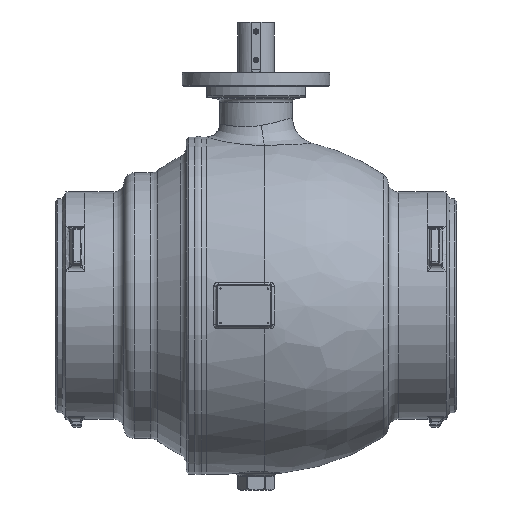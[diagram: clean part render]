
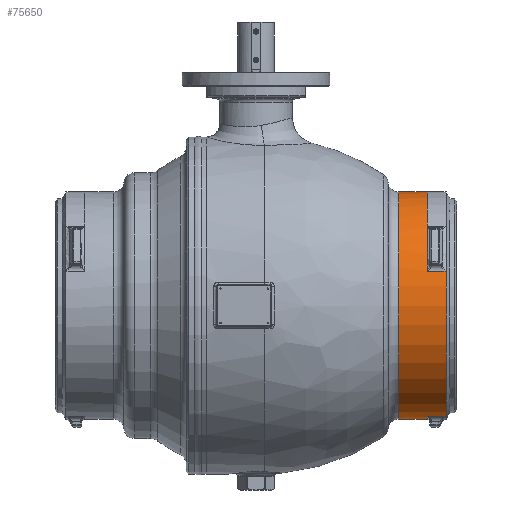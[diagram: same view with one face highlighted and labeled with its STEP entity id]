
A CAD part, front view. The second image highlights one B-rep face of the part: STEP entity #75650.
In plain terms, the highlighted cylindrical face has radius 432 mm (diameter 864 mm), a partial arc.
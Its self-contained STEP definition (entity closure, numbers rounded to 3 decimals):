
#17346=CARTESIAN_POINT('',(722.278,0.,0.));
#17347=DIRECTION('',(-1.,0.,0.));
#17348=DIRECTION('',(0.,0.,-1.));
#17349=AXIS2_PLACEMENT_3D('',#17346,#17347,#17348);
#17351=DIRECTION('',(-1.,0.,0.));
#17352=VECTOR('',#17351,0.04);
#17353=CARTESIAN_POINT('',(722.278,0.,-432.));
#17354=LINE('',#17353,#17352);
#17355=DIRECTION('',(-1.,0.,0.));
#17356=VECTOR('',#17355,71.238);
#17357=CARTESIAN_POINT('',(722.238,-92.061,
-422.077));
#17358=LINE('',#17357,#17356);
#17359=DIRECTION('',(-1.,0.,0.));
#17360=VECTOR('',#17359,109.307);
#17361=CARTESIAN_POINT('',(651.,0.,-432.));
#17362=LINE('',#17361,#17360);
#17363=CARTESIAN_POINT('',(541.693,0.,0.));
#17364=DIRECTION('',(1.,0.,0.));
#17365=DIRECTION('',(0.,0.,1.));
#17366=AXIS2_PLACEMENT_3D('',#17363,#17364,#17365);
#17368=DIRECTION('',(-1.,0.,0.));
#17369=VECTOR('',#17368,109.307);
#17370=CARTESIAN_POINT('',(651.,0.,432.));
#17371=LINE('',#17370,#17369);
#17372=CARTESIAN_POINT('',(651.,0.,0.));
#17373=DIRECTION('',(-1.,0.,0.));
#17374=DIRECTION('',(0.,-0.715,0.699));
#17375=AXIS2_PLACEMENT_3D('',#17372,#17373,#17374);
#17377=DIRECTION('',(-1.,0.,0.));
#17378=VECTOR('',#17377,71.238);
#17379=CARTESIAN_POINT('',(722.238,-411.56,
131.311));
#17380=LINE('',#17379,#17378);
#17381=CARTESIAN_POINT('',(722.238,0.,0.));
#17382=DIRECTION('',(1.,0.,0.));
#17383=DIRECTION('',(0.,0.,1.));
#17384=AXIS2_PLACEMENT_3D('',#17381,#17382,#17383);
#17386=DIRECTION('',(-1.,0.,0.));
#17387=VECTOR('',#17386,0.04);
#17388=CARTESIAN_POINT('',(722.278,0.,432.));
#17389=LINE('',#17388,#17387);
#17428=CARTESIAN_POINT('',(722.238,-92.061,
-422.077));
#17430=CARTESIAN_POINT('',(722.238,0.,0.));
#17431=DIRECTION('',(1.,0.,0.));
#17432=DIRECTION('',(0.,-0.213,-0.977));
#17433=AXIS2_PLACEMENT_3D('',#17430,#17431,#17432);
#17555=CARTESIAN_POINT('',(651.,-92.061,-422.077));
#17947=CARTESIAN_POINT('',(651.,0.,0.));
#17948=DIRECTION('',(-1.,0.,0.));
#17949=DIRECTION('',(0.,0.,-1.));
#17950=AXIS2_PLACEMENT_3D('',#17947,#17948,#17949);
#39049=CARTESIAN_POINT('',(651.,-411.56,131.311));
#39051=CARTESIAN_POINT('',(651.,0.,0.));
#39052=DIRECTION('',(-1.,0.,0.));
#39053=DIRECTION('',(0.,-0.953,0.304));
#39054=AXIS2_PLACEMENT_3D('',#39051,#39052,#39053);
#39189=CARTESIAN_POINT('',(722.238,0.,0.));
#39190=DIRECTION('',(1.,0.,0.));
#39191=DIRECTION('',(0.,-0.715,0.699));
#39192=AXIS2_PLACEMENT_3D('',#39189,#39190,#39191);
#39330=CARTESIAN_POINT('',(722.238,-411.56,
131.311));
#41988=CARTESIAN_POINT('',(541.693,0.,432.));
#41989=CARTESIAN_POINT('',(541.693,0.,-432.));
#41990=VERTEX_POINT('',#41988);
#41991=VERTEX_POINT('',#41989);
#42044=CARTESIAN_POINT('',(651.,0.,-432.));
#42045=VERTEX_POINT('',#42044);
#42046=CARTESIAN_POINT('',(651.,0.,432.));
#42047=VERTEX_POINT('',#42046);
#42048=CARTESIAN_POINT('',(651.,-308.937,301.964));
#42049=VERTEX_POINT('',#42048);
#42050=CARTESIAN_POINT('',(722.238,0.,432.));
#42051=CARTESIAN_POINT('',(722.238,-308.937,
301.964));
#42052=VERTEX_POINT('',#42050);
#42053=VERTEX_POINT('',#42051);
#42075=VERTEX_POINT('',#39049);
#42097=VERTEX_POINT('',#39330);
#42145=VERTEX_POINT('',#17428);
#42167=VERTEX_POINT('',#17555);
#42192=CARTESIAN_POINT('',(722.238,0.,-432.));
#42193=VERTEX_POINT('',#42192);
#42232=CARTESIAN_POINT('',(722.278,0.,432.));
#42233=CARTESIAN_POINT('',(722.278,0.,-432.));
#42234=VERTEX_POINT('',#42232);
#42235=VERTEX_POINT('',#42233);
#75621=CARTESIAN_POINT('',(837.85,0.,0.));
#75622=DIRECTION('',(-1.,0.,0.));
#75623=DIRECTION('',(0.,0.,1.));
#75624=AXIS2_PLACEMENT_3D('',#75621,#75622,#75623);
#75625=CYLINDRICAL_SURFACE('',#75624,432.);
#75627=ORIENTED_EDGE('',*,*,#75626,.F.);
#75628=ORIENTED_EDGE('',*,*,#75606,.T.);
#75630=ORIENTED_EDGE('',*,*,#75629,.F.);
#75632=ORIENTED_EDGE('',*,*,#75631,.T.);
#75634=ORIENTED_EDGE('',*,*,#75633,.F.);
#75635=ORIENTED_EDGE('',*,*,#75598,.T.);
#75637=ORIENTED_EDGE('',*,*,#75636,.F.);
#75638=ORIENTED_EDGE('',*,*,#75594,.F.);
#75639=ORIENTED_EDGE('',*,*,#75592,.F.);
#75641=ORIENTED_EDGE('',*,*,#75640,.F.);
#75643=ORIENTED_EDGE('',*,*,#75642,.F.);
#75645=ORIENTED_EDGE('',*,*,#75644,.F.);
#75646=ORIENTED_EDGE('',*,*,#75588,.F.);
#75647=ORIENTED_EDGE('',*,*,#75586,.F.);
#75648=EDGE_LOOP('',(#75627,#75628,#75630,#75632,#75634,#75635,#75637,#75638,
#75639,#75641,#75643,#75645,#75646,#75647));
#75649=FACE_OUTER_BOUND('',#75648,.F.);
#75650=ADVANCED_FACE('',(#75649),#75625,.T.);
#17350=CIRCLE('',#17349,432.);
#17367=CIRCLE('',#17366,432.);
#17376=CIRCLE('',#17375,432.);
#17385=CIRCLE('',#17384,432.);
#17434=CIRCLE('',#17433,432.);
#17951=CIRCLE('',#17950,432.);
#39055=CIRCLE('',#39054,432.);
#39193=CIRCLE('',#39192,432.);
#75586=EDGE_CURVE('',#42234,#42052,#17389,.T.);
#75588=EDGE_CURVE('',#42052,#42053,#17385,.T.);
#75592=EDGE_CURVE('',#42049,#42047,#17376,.T.);
#75594=EDGE_CURVE('',#42047,#41990,#17371,.T.);
#75598=EDGE_CURVE('',#42045,#41991,#17362,.T.);
#75606=EDGE_CURVE('',#42235,#42193,#17354,.T.);
#75626=EDGE_CURVE('',#42235,#42234,#17350,.T.);
#75629=EDGE_CURVE('',#42145,#42193,#17434,.T.);
#75631=EDGE_CURVE('',#42145,#42167,#17358,.T.);
#75633=EDGE_CURVE('',#42045,#42167,#17951,.T.);
#75636=EDGE_CURVE('',#41990,#41991,#17367,.T.);
#75640=EDGE_CURVE('',#42075,#42049,#39055,.T.);
#75642=EDGE_CURVE('',#42097,#42075,#17380,.T.);
#75644=EDGE_CURVE('',#42053,#42097,#39193,.T.);
